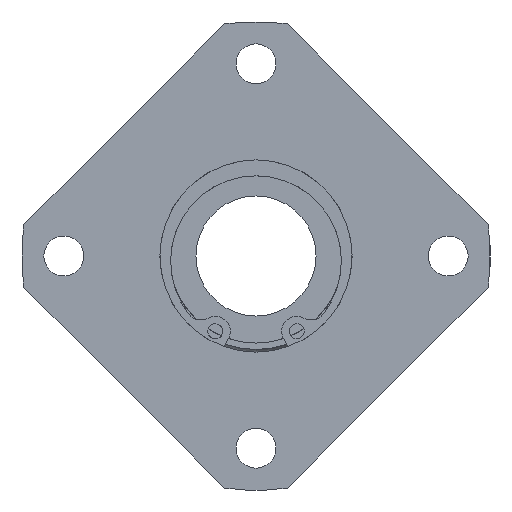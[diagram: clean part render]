
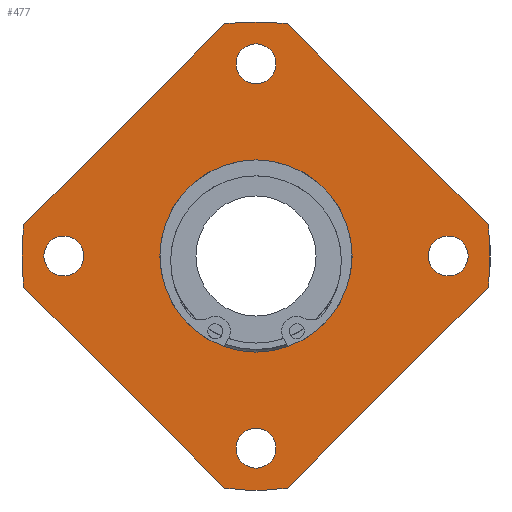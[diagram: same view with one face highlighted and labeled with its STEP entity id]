
A CAD part, left-side view. The second image highlights one B-rep face of the part: STEP entity #477.
In plain terms, the highlighted planar face has unit normal (-1, 0, 0).
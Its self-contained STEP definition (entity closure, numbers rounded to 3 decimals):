
#60=CARTESIAN_POINT('',(0.0,32.0,-3.324));
#61=VERTEX_POINT('',#60);
#62=CARTESIAN_POINT('',(0.0,32.0,0.));
#63=DIRECTION('',(1.0,0.0,0.0));
#64=DIRECTION('',(0.0,0.0,-1.0));
#65=AXIS2_PLACEMENT_3D('',#62,#63,#64);
#66=CIRCLE('',#65,3.324);
#67=EDGE_CURVE('',#61,#61,#66,.T.);
#88=CARTESIAN_POINT('',(0.0,-3.324,-32.0));
#89=VERTEX_POINT('',#88);
#90=CARTESIAN_POINT('',(0.0,0.,-32.0));
#91=DIRECTION('',(1.0,0.0,0.0));
#92=DIRECTION('',(0.0,-1.0,0.0));
#93=AXIS2_PLACEMENT_3D('',#90,#91,#92);
#94=CIRCLE('',#93,3.324);
#95=EDGE_CURVE('',#89,#89,#94,.T.);
#116=CARTESIAN_POINT('',(0.0,-32.0,3.324));
#117=VERTEX_POINT('',#116);
#118=CARTESIAN_POINT('',(0.0,-32.0,0.));
#119=DIRECTION('',(1.0,0.0,0.0));
#120=DIRECTION('',(0.0,0.0,1.0));
#121=AXIS2_PLACEMENT_3D('',#118,#119,#120);
#122=CIRCLE('',#121,3.324);
#123=EDGE_CURVE('',#117,#117,#122,.T.);
#144=CARTESIAN_POINT('',(0.0,3.324,32.0));
#145=VERTEX_POINT('',#144);
#146=CARTESIAN_POINT('',(0.0,0.0,32.0));
#147=DIRECTION('',(1.0,0.0,0.0));
#148=DIRECTION('',(0.0,1.0,0.0));
#149=AXIS2_PLACEMENT_3D('',#146,#147,#148);
#150=CIRCLE('',#149,3.324);
#151=EDGE_CURVE('',#145,#145,#150,.T.);
#171=CARTESIAN_POINT('',(0.0,-38.654,-5.187));
#172=VERTEX_POINT('',#171);
#179=CARTESIAN_POINT('',(0.0,-5.187,-38.654));
#180=VERTEX_POINT('',#179);
#181=CARTESIAN_POINT('',(0.0,-5.187,-38.654));
#182=DIRECTION('',(0.0,-0.707,0.707));
#183=VECTOR('',#182,47.329);
#184=LINE('',#181,#183);
#185=EDGE_CURVE('',#180,#172,#184,.T.);
#211=CARTESIAN_POINT('',(0.0,5.187,-38.654));
#212=VERTEX_POINT('',#211);
#219=CARTESIAN_POINT('',(0.0,38.654,-5.187));
#220=VERTEX_POINT('',#219);
#221=CARTESIAN_POINT('',(0.0,38.654,-5.187));
#222=DIRECTION('',(0.0,-0.707,-0.707));
#223=VECTOR('',#222,47.329);
#224=LINE('',#221,#223);
#225=EDGE_CURVE('',#220,#212,#224,.T.);
#251=CARTESIAN_POINT('',(0.0,38.654,5.187));
#252=VERTEX_POINT('',#251);
#259=CARTESIAN_POINT('',(0.0,5.187,38.654));
#260=VERTEX_POINT('',#259);
#261=CARTESIAN_POINT('',(0.0,5.187,38.654));
#262=DIRECTION('',(0.0,0.707,-0.707));
#263=VECTOR('',#262,47.329);
#264=LINE('',#261,#263);
#265=EDGE_CURVE('',#260,#252,#264,.T.);
#291=CARTESIAN_POINT('',(0.0,-5.187,38.654));
#292=VERTEX_POINT('',#291);
#299=CARTESIAN_POINT('',(0.0,-38.654,5.187));
#300=VERTEX_POINT('',#299);
#301=CARTESIAN_POINT('',(0.0,-38.654,5.187));
#302=DIRECTION('',(0.0,0.707,0.707));
#303=VECTOR('',#302,47.329);
#304=LINE('',#301,#303);
#305=EDGE_CURVE('',#300,#292,#304,.T.);
#322=CARTESIAN_POINT('',(0.0,0.0,0.0));
#323=DIRECTION('',(-1.0,0.0,0.0));
#324=DIRECTION('',(0.0,0.0,1.0));
#325=AXIS2_PLACEMENT_3D('',#322,#323,#324);
#326=CIRCLE('',#325,39.0);
#327=EDGE_CURVE('',#292,#260,#326,.T.);
#346=CARTESIAN_POINT('',(0.0,0.0,0.0));
#347=DIRECTION('',(-1.0,0.0,0.0));
#348=DIRECTION('',(0.0,0.0,1.0));
#349=AXIS2_PLACEMENT_3D('',#346,#347,#348);
#350=CIRCLE('',#349,39.0);
#351=EDGE_CURVE('',#252,#220,#350,.T.);
#370=CARTESIAN_POINT('',(0.0,0.0,0.0));
#371=DIRECTION('',(-1.0,0.0,0.0));
#372=DIRECTION('',(0.0,0.0,1.0));
#373=AXIS2_PLACEMENT_3D('',#370,#371,#372);
#374=CIRCLE('',#373,39.0);
#375=EDGE_CURVE('',#212,#180,#374,.T.);
#433=CARTESIAN_POINT('',(0.0,0.0,27.5));
#434=DIRECTION('',(-1.0,0.0,0.0));
#435=DIRECTION('',(0.0,0.0,1.0));
#436=AXIS2_PLACEMENT_3D('',#433,#434,#435);
#437=PLANE('',#436);
#438=ORIENTED_EDGE('',*,*,#185,.T.);
#439=CARTESIAN_POINT('',(0.0,0.0,0.0));
#440=DIRECTION('',(-1.0,0.0,0.0));
#441=DIRECTION('',(0.0,0.0,1.0));
#442=AXIS2_PLACEMENT_3D('',#439,#440,#441);
#443=CIRCLE('',#442,39.0);
#444=EDGE_CURVE('',#172,#300,#443,.T.);
#445=ORIENTED_EDGE('',*,*,#444,.T.);
#446=ORIENTED_EDGE('',*,*,#305,.T.);
#447=ORIENTED_EDGE('',*,*,#327,.T.);
#448=ORIENTED_EDGE('',*,*,#265,.T.);
#449=ORIENTED_EDGE('',*,*,#351,.T.);
#450=ORIENTED_EDGE('',*,*,#225,.T.);
#451=ORIENTED_EDGE('',*,*,#375,.T.);
#452=EDGE_LOOP('',(#438,#445,#446,#447,#448,#449,#450,#451));
#453=FACE_OUTER_BOUND('',#452,.T.);
#454=ORIENTED_EDGE('',*,*,#67,.T.);
#455=EDGE_LOOP('',(#454));
#456=FACE_BOUND('',#455,.T.);
#457=ORIENTED_EDGE('',*,*,#95,.T.);
#458=EDGE_LOOP('',(#457));
#459=FACE_BOUND('',#458,.T.);
#460=ORIENTED_EDGE('',*,*,#123,.T.);
#461=EDGE_LOOP('',(#460));
#462=FACE_BOUND('',#461,.T.);
#463=ORIENTED_EDGE('',*,*,#151,.T.);
#464=EDGE_LOOP('',(#463));
#465=FACE_BOUND('',#464,.T.);
#466=CARTESIAN_POINT('',(0.0,0.0,16.0));
#467=VERTEX_POINT('',#466);
#468=CARTESIAN_POINT('',(0.0,0.0,0.0));
#469=DIRECTION('',(-1.0,0.0,0.0));
#470=DIRECTION('',(0.0,0.0,1.0));
#471=AXIS2_PLACEMENT_3D('',#468,#469,#470);
#472=CIRCLE('',#471,16.0);
#473=EDGE_CURVE('',#467,#467,#472,.T.);
#474=ORIENTED_EDGE('',*,*,#473,.F.);
#475=EDGE_LOOP('',(#474));
#476=FACE_BOUND('',#475,.T.);
#477=ADVANCED_FACE('',(#453,#456,#459,#462,#465,#476),#437,.T.);
